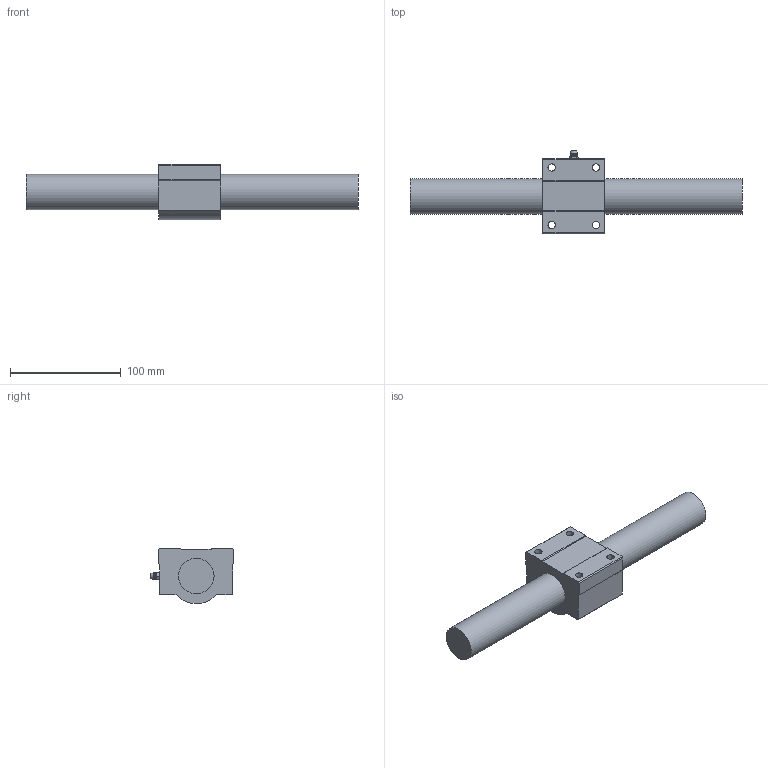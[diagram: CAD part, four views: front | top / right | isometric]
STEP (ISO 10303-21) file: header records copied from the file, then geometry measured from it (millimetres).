
FILE_DESCRIPTION((''),'2;1');
FILE_NAME('D:\製品 (図面)\カタログ用3D\ネジ関連\STEP形式\TMH\TMH32.stp','2010-06-02T15:18:32',('Tsuchiya'),(''),'Autodesk Inventor 10','Autodesk Inventor 10','');
FILE_SCHEMA(('AUTOMOTIVE_DESIGN { 1 0 10303 214 1 1 1 1 }'));
Length unit declared in the file: millimetre
Products named in the file (3): TMH32; TMH321; TMH322
Assembly tree (2 placements, depth 2):
  TMH32
    TMH321
    TMH322
Bounding box: 300 x 75.8 x 50 mm (x, y, z)
Volume: 357804.5 mm3; surface area: 57580.4 mm2
Topology: 2 solids, 2 shells, 61 faces, 144 edges, 91 vertices
Faces by surface type: plane 31, cone 13, bspline 8, cylinder 7, sphere 2
Full cylindrical faces by diameter (mm): 6.6 x2, 6.647 x2, 32 x2
Entity records: 1814 total; most frequent: CARTESIAN_POINT 470, DIRECTION 258, ORIENTED_EDGE 248, EDGE_CURVE 124, AXIS2_PLACEMENT_3D 100, EDGE_LOOP 92, VERTEX_POINT 88, FACE_OUTER_BOUND 61
